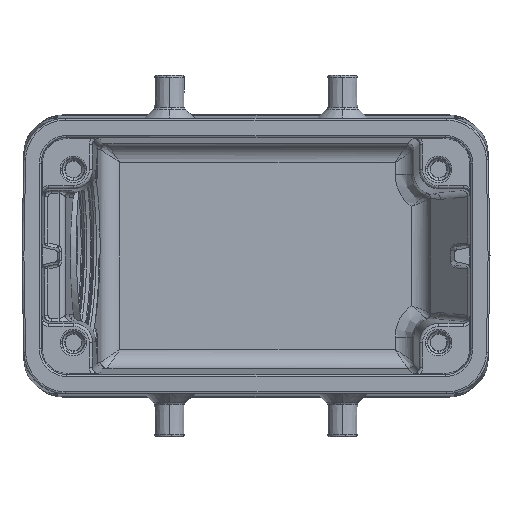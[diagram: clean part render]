
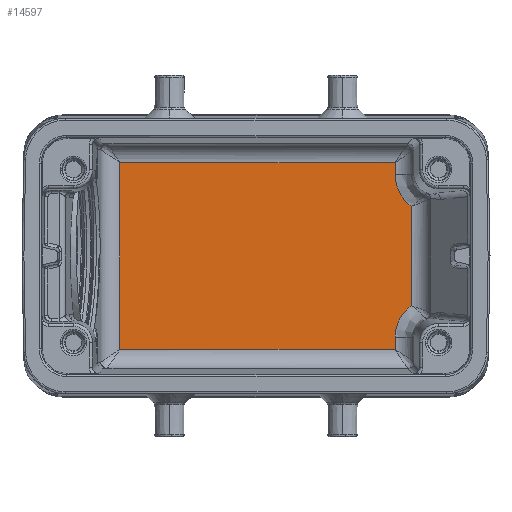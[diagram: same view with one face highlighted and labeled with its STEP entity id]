
A CAD part, front view. The second image highlights one B-rep face of the part: STEP entity #14597.
In plain terms, the highlighted planar face has unit normal (0, -1, 0).
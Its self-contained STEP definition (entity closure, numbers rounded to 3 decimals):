
#408 = CARTESIAN_POINT ( 'NONE',  ( 22.558, 70., -9.583 ) ) ;
#604 = CARTESIAN_POINT ( 'NONE',  ( 23.165, 70., -8.746 ) ) ;
#785 = CARTESIAN_POINT ( 'NONE',  ( 22.754, 70., -9.278 ) ) ;
#1548 = B_SPLINE_CURVE_WITH_KNOTS ( 'NONE', 3,
 ( #18286, #11006, #27037, #18100, #27236, #17901, #29403, #11104, #6710, #22618, #13328, #11203, #22717, #25043, #15623, #4478, #9103, #4177 ),
 .UNSPECIFIED., .F., .F.,
 ( 4, 2, 2, 2, 2, 2, 2, 2, 4 ),
 ( 0., 0.25, 0.375, 0.437, 0.469, 0.484, 0.5, 0.75, 1. ),
 .UNSPECIFIED. ) ;
#1568 = EDGE_CURVE ( 'NONE', #3690, #27255, #25034, .T. ) ;
#2277 = DIRECTION ( 'NONE',  ( 0., 0., -1. ) ) ;
#2550 = EDGE_CURVE ( 'NONE', #25635, #23107, #13540, .T. ) ;
#2601 = ORIENTED_EDGE ( 'NONE', *, *, #18248, .F. ) ;
#3048 = CARTESIAN_POINT ( 'NONE',  ( 22.096, 70., -10.444 ) ) ;
#3067 = CARTESIAN_POINT ( 'NONE',  ( 21.691, 70., -14.564 ) ) ;
#3690 = VERTEX_POINT ( 'NONE', #29083 ) ;
#4112 = LINE ( 'NONE', #9045, #18086 ) ;
#4177 = CARTESIAN_POINT ( 'NONE',  ( 24.259, 70., 7.77 ) ) ;
#4478 = CARTESIAN_POINT ( 'NONE',  ( 23.667, 70., 8.216 ) ) ;
#4497 = DIRECTION ( 'NONE',  ( 0., 1., 0. ) ) ;
#4863 = VERTEX_POINT ( 'NONE', #19105 ) ;
#4988 = CARTESIAN_POINT ( 'NONE',  ( 21.725, 70., -11.901 ) ) ;
#5256 = FACE_OUTER_BOUND ( 'NONE', #18673, .T. ) ;
#5279 = CARTESIAN_POINT ( 'NONE',  ( 22.389, 70., -9.882 ) ) ;
#5384 = CARTESIAN_POINT ( 'NONE',  ( 22.997, 70., -8.943 ) ) ;
#5523 = DIRECTION ( 'NONE',  ( 1., 0., 0. ) ) ;
#5675 = ORIENTED_EDGE ( 'NONE', *, *, #2550, .T. ) ;
#6177 = LINE ( 'NONE', #22381, #6910 ) ;
#6297 = B_SPLINE_CURVE_WITH_KNOTS ( 'NONE', 3,
 ( #18808, #28219, #16699, #604, #5384, #785, #28130, #408, #16798, #16419, #14427, #5279, #3048, #19100, #4988, #21409, #23726 ),
 .UNSPECIFIED., .F., .F.,
 ( 4, 2, 2, 2, 1, 2, 2, 2, 4 ),
 ( 0., 0.25, 0.375, 0.438, 0.469, 0.484, 0.5, 0.75, 1. ),
 .UNSPECIFIED. ) ;
#6710 = CARTESIAN_POINT ( 'NONE',  ( 22.241, 70., 10.181 ) ) ;
#6910 = VECTOR ( 'NONE', #13201, 1000. ) ;
#7094 = VECTOR ( 'NONE', #23519, 1000. ) ;
#7312 = CARTESIAN_POINT ( 'NONE',  ( 131.663, 70., -14.564 ) ) ;
#7467 = VECTOR ( 'NONE', #2277, 1000. ) ;
#9045 = CARTESIAN_POINT ( 'NONE',  ( 21.691, 70., 0. ) ) ;
#9103 = CARTESIAN_POINT ( 'NONE',  ( 23.986, 70., 7.96 ) ) ;
#11006 = CARTESIAN_POINT ( 'NONE',  ( 21.692, 70., 12.331 ) ) ;
#11104 = CARTESIAN_POINT ( 'NONE',  ( 22.211, 70., 10.247 ) ) ;
#11203 = CARTESIAN_POINT ( 'NONE',  ( 22.337, 70., 9.982 ) ) ;
#11211 = ORIENTED_EDGE ( 'NONE', *, *, #20448, .F. ) ;
#11268 = ORIENTED_EDGE ( 'NONE', *, *, #24019, .F. ) ;
#11614 = VECTOR ( 'NONE', #14260, 1000. ) ;
#12273 = AXIS2_PLACEMENT_3D ( 'NONE', #13744, #4497, #22538 ) ;
#12576 = CARTESIAN_POINT ( 'NONE',  ( -21.227, 70., 14.564 ) ) ;
#12725 = VERTEX_POINT ( 'NONE', #15399 ) ;
#13201 = DIRECTION ( 'NONE',  ( 0., 0., -1. ) ) ;
#13328 = CARTESIAN_POINT ( 'NONE',  ( 22.304, 70., 10.048 ) ) ;
#13540 = LINE ( 'NONE', #7312, #7094 ) ;
#13744 = CARTESIAN_POINT ( 'NONE',  ( 0., 70., 0. ) ) ;
#14260 = DIRECTION ( 'NONE',  ( 0., 0., 1. ) ) ;
#14427 = CARTESIAN_POINT ( 'NONE',  ( 22.408, 70., -9.847 ) ) ;
#14597 = ADVANCED_FACE ( 'NONE', ( #5256 ), #25057, .F. ) ;
#15089 = VERTEX_POINT ( 'NONE', #12576 ) ;
#15399 = CARTESIAN_POINT ( 'NONE',  ( 21.691, 70., -12.691 ) ) ;
#15623 = CARTESIAN_POINT ( 'NONE',  ( 23.005, 70., 8.913 ) ) ;
#15831 = ORIENTED_EDGE ( 'NONE', *, *, #28478, .F. ) ;
#15965 = DIRECTION ( 'NONE',  ( 0., 0., -1. ) ) ;
#16295 = CARTESIAN_POINT ( 'NONE',  ( 24.259, 70., 0. ) ) ;
#16419 = CARTESIAN_POINT ( 'NONE',  ( 22.445, 70., -9.779 ) ) ;
#16673 = EDGE_CURVE ( 'NONE', #27255, #12725, #6297, .T. ) ;
#16699 = CARTESIAN_POINT ( 'NONE',  ( 23.66, 70., -8.221 ) ) ;
#16798 = CARTESIAN_POINT ( 'NONE',  ( 22.501, 70., -9.679 ) ) ;
#17901 = CARTESIAN_POINT ( 'NONE',  ( 22.076, 70., 10.573 ) ) ;
#18086 = VECTOR ( 'NONE', #15965, 1000. ) ;
#18100 = CARTESIAN_POINT ( 'NONE',  ( 21.874, 70., 11.203 ) ) ;
#18219 = ORIENTED_EDGE ( 'NONE', *, *, #16673, .F. ) ;
#18248 = EDGE_CURVE ( 'NONE', #25635, #15089, #21273, .T. ) ;
#18286 = CARTESIAN_POINT ( 'NONE',  ( 21.691, 70., 12.691 ) ) ;
#18673 = EDGE_LOOP ( 'NONE', ( #11211, #2601, #5675, #11268, #18219, #19018, #15831, #27805 ) ) ;
#18808 = CARTESIAN_POINT ( 'NONE',  ( 24.259, 70., -7.769 ) ) ;
#19018 = ORIENTED_EDGE ( 'NONE', *, *, #1568, .F. ) ;
#19100 = CARTESIAN_POINT ( 'NONE',  ( 21.926, 70., -10.96 ) ) ;
#19105 = CARTESIAN_POINT ( 'NONE',  ( 21.691, 70., 12.691 ) ) ;
#19257 = VERTEX_POINT ( 'NONE', #27794 ) ;
#20057 = VECTOR ( 'NONE', #5523, 1000. ) ;
#20448 = EDGE_CURVE ( 'NONE', #15089, #19257, #29005, .T. ) ;
#21273 = LINE ( 'NONE', #27769, #11614 ) ;
#21409 = CARTESIAN_POINT ( 'NONE',  ( 21.692, 70., -12.326 ) ) ;
#22381 = CARTESIAN_POINT ( 'NONE',  ( 21.691, 70., 0. ) ) ;
#22538 = DIRECTION ( 'NONE',  ( 0., 0., 1. ) ) ;
#22618 = CARTESIAN_POINT ( 'NONE',  ( 22.288, 70., 10.081 ) ) ;
#22717 = CARTESIAN_POINT ( 'NONE',  ( 22.353, 70., 9.95 ) ) ;
#23107 = VERTEX_POINT ( 'NONE', #3067 ) ;
#23519 = DIRECTION ( 'NONE',  ( 1., 0., 0. ) ) ;
#23726 = CARTESIAN_POINT ( 'NONE',  ( 21.691, 70., -12.691 ) ) ;
#23755 = CARTESIAN_POINT ( 'NONE',  ( 0., 70., 14.564 ) ) ;
#24019 = EDGE_CURVE ( 'NONE', #12725, #23107, #4112, .T. ) ;
#25034 = LINE ( 'NONE', #16295, #7467 ) ;
#25043 = CARTESIAN_POINT ( 'NONE',  ( 22.663, 70., 9.358 ) ) ;
#25057 = PLANE ( 'NONE',  #12273 ) ;
#25635 = VERTEX_POINT ( 'NONE', #28005 ) ;
#25823 = CARTESIAN_POINT ( 'NONE',  ( 24.259, 70., -7.769 ) ) ;
#27037 = CARTESIAN_POINT ( 'NONE',  ( 21.724, 70., 11.909 ) ) ;
#27236 = CARTESIAN_POINT ( 'NONE',  ( 21.941, 70., 10.956 ) ) ;
#27255 = VERTEX_POINT ( 'NONE', #25823 ) ;
#27769 = CARTESIAN_POINT ( 'NONE',  ( -21.227, 70., 0. ) ) ;
#27794 = CARTESIAN_POINT ( 'NONE',  ( 21.691, 70., 14.564 ) ) ;
#27805 = ORIENTED_EDGE ( 'NONE', *, *, #28973, .F. ) ;
#28005 = CARTESIAN_POINT ( 'NONE',  ( -21.227, 70., -14.564 ) ) ;
#28130 = CARTESIAN_POINT ( 'NONE',  ( 22.674, 70., -9.396 ) ) ;
#28219 = CARTESIAN_POINT ( 'NONE',  ( 23.981, 70., -7.963 ) ) ;
#28478 = EDGE_CURVE ( 'NONE', #4863, #3690, #1548, .T. ) ;
#28973 = EDGE_CURVE ( 'NONE', #19257, #4863, #6177, .T. ) ;
#29005 = LINE ( 'NONE', #23755, #20057 ) ;
#29083 = CARTESIAN_POINT ( 'NONE',  ( 24.259, 70., 7.77 ) ) ;
#29403 = CARTESIAN_POINT ( 'NONE',  ( 22.126, 70., 10.443 ) ) ;
